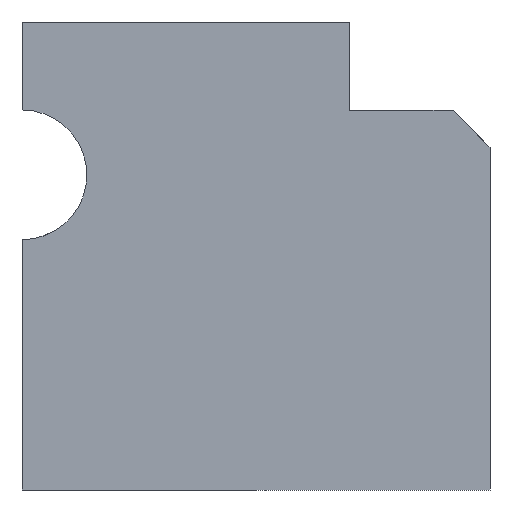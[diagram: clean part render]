
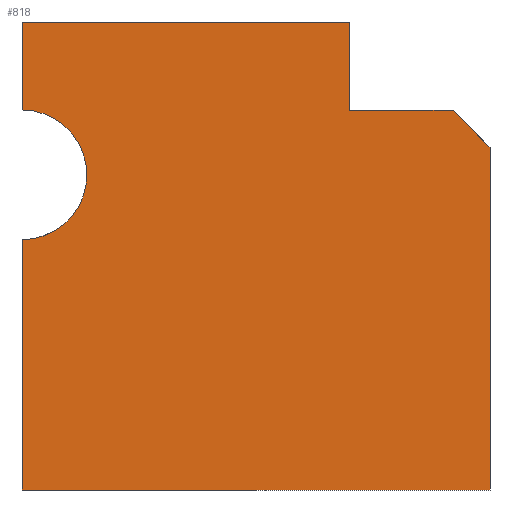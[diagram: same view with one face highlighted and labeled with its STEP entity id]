
A CAD part, left-side view. The second image highlights one B-rep face of the part: STEP entity #818.
In plain terms, the highlighted planar face has unit normal (-1, 0, 0).
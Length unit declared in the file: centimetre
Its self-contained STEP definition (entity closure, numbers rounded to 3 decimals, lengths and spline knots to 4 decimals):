
#2 = EDGE_CURVE ( 'NONE', #890, #308, #367, .T. ) ;
#24 = CARTESIAN_POINT ( 'NONE',  ( 0., 299.9104, 811.0946 ) ) ;
#47 = VECTOR ( 'NONE', #376, 100. ) ;
#90 = DIRECTION ( 'NONE',  ( 0., 0., -1. ) ) ;
#93 = EDGE_CURVE ( 'NONE', #609, #455, #831, .T. ) ;
#134 = CARTESIAN_POINT ( 'NONE',  ( 0., 299.9104, 811.0946 ) ) ;
#147 = CARTESIAN_POINT ( 'NONE',  ( 0., 299.9104, 1000. ) ) ;
#163 = CARTESIAN_POINT ( 'NONE',  ( 0., 1000., 1000. ) ) ;
#176 = LINE ( 'NONE', #452, #226 ) ;
#191 = CARTESIAN_POINT ( 'NONE',  ( 0., 267.7866, 1000. ) ) ;
#210 = LINE ( 'NONE', #779, #213 ) ;
#213 = VECTOR ( 'NONE', #348, 100. ) ;
#226 = VECTOR ( 'NONE', #654, 100. ) ;
#237 = CARTESIAN_POINT ( 'NONE',  ( 0., 0., 732.2134 ) ) ;
#245 = DIRECTION ( 'NONE',  ( 1., 0., 0. ) ) ;
#246 = LINE ( 'NONE', #534, #476 ) ;
#247 = VECTOR ( 'NONE', #563, 100. ) ;
#265 = ORIENTED_EDGE ( 'NONE', *, *, #638, .F. ) ;
#308 = VERTEX_POINT ( 'NONE', #147 ) ;
#313 = LINE ( 'NONE', #24, #591 ) ;
#331 = ORIENTED_EDGE ( 'NONE', *, *, #93, .T. ) ;
#348 = DIRECTION ( 'NONE',  ( 0., 0., -1. ) ) ;
#367 = LINE ( 'NONE', #725, #47 ) ;
#373 = DIRECTION ( 'NONE',  ( 0., 0., -1. ) ) ;
#376 = DIRECTION ( 'NONE',  ( 0., -1., 0. ) ) ;
#385 = CARTESIAN_POINT ( 'NONE',  ( 0., 1000., 1000. ) ) ;
#387 = DIRECTION ( 'NONE',  ( 0., 0., -1. ) ) ;
#406 = EDGE_CURVE ( 'NONE', #412, #531, #556, .T. ) ;
#407 = LINE ( 'NONE', #191, #449 ) ;
#412 = VERTEX_POINT ( 'NONE', #784 ) ;
#417 = ORIENTED_EDGE ( 'NONE', *, *, #694, .T. ) ;
#444 = CARTESIAN_POINT ( 'NONE',  ( 0., 1000., 534.911 ) ) ;
#449 = VECTOR ( 'NONE', #627, 100. ) ;
#452 = CARTESIAN_POINT ( 'NONE',  ( 0., 299.9104, 811.0946 ) ) ;
#455 = VERTEX_POINT ( 'NONE', #633 ) ;
#476 = VECTOR ( 'NONE', #373, 100. ) ;
#477 = ORIENTED_EDGE ( 'NONE', *, *, #487, .T. ) ;
#487 = EDGE_CURVE ( 'NONE', #890, #412, #210, .T. ) ;
#488 = EDGE_LOOP ( 'NONE', ( #477, #712, #523, #331, #794, #417, #558, #265, #672 ) ) ;
#522 = CARTESIAN_POINT ( 'NONE',  ( 0., 1000., 0. ) ) ;
#523 = ORIENTED_EDGE ( 'NONE', *, *, #532, .T. ) ;
#531 = VERTEX_POINT ( 'NONE', #444 ) ;
#532 = EDGE_CURVE ( 'NONE', #531, #609, #246, .T. ) ;
#534 = CARTESIAN_POINT ( 'NONE',  ( 0., 1000., 1000. ) ) ;
#556 = CIRCLE ( 'NONE', #705, 138.5529 ) ;
#558 = ORIENTED_EDGE ( 'NONE', *, *, #565, .F. ) ;
#563 = DIRECTION ( 'NONE',  ( 0., -1., 0. ) ) ;
#565 = EDGE_CURVE ( 'NONE', #691, #909, #176, .T. ) ;
#567 = DIRECTION ( 'NONE',  ( 1., 0., 0. ) ) ;
#574 = CARTESIAN_POINT ( 'NONE',  ( 0., 1000., 673.4639 ) ) ;
#580 = DIRECTION ( 'NONE',  ( 0., 0., -1. ) ) ;
#585 = CARTESIAN_POINT ( 'NONE',  ( 0., 0., 1000. ) ) ;
#590 = EDGE_CURVE ( 'NONE', #825, #455, #805, .T. ) ;
#591 = VECTOR ( 'NONE', #90, 100. ) ;
#593 = CARTESIAN_POINT ( 'NONE',  ( 0., 78.8812, 811.0946 ) ) ;
#604 = VECTOR ( 'NONE', #387, 100. ) ;
#609 = VERTEX_POINT ( 'NONE', #522 ) ;
#627 = DIRECTION ( 'NONE',  ( 0., 0.707, 0.707 ) ) ;
#633 = CARTESIAN_POINT ( 'NONE',  ( 0., 0., 0. ) ) ;
#638 = EDGE_CURVE ( 'NONE', #308, #691, #313, .T. ) ;
#654 = DIRECTION ( 'NONE',  ( 0., -1., 0. ) ) ;
#672 = ORIENTED_EDGE ( 'NONE', *, *, #2, .F. ) ;
#691 = VERTEX_POINT ( 'NONE', #134 ) ;
#694 = EDGE_CURVE ( 'NONE', #825, #909, #407, .T. ) ;
#705 = AXIS2_PLACEMENT_3D ( 'NONE', #574, #567, #580 ) ;
#712 = ORIENTED_EDGE ( 'NONE', *, *, #406, .T. ) ;
#721 = AXIS2_PLACEMENT_3D ( 'NONE', #163, #245, #865 ) ;
#725 = CARTESIAN_POINT ( 'NONE',  ( 0., 1000., 1000. ) ) ;
#728 = FACE_OUTER_BOUND ( 'NONE', #488, .T. ) ;
#779 = CARTESIAN_POINT ( 'NONE',  ( 0., 1000., 1000. ) ) ;
#784 = CARTESIAN_POINT ( 'NONE',  ( 0., 1000., 812.0169 ) ) ;
#794 = ORIENTED_EDGE ( 'NONE', *, *, #590, .F. ) ;
#801 = PLANE ( 'NONE',  #721 ) ;
#805 = LINE ( 'NONE', #585, #604 ) ;
#818 = ADVANCED_FACE ( 'NONE', ( #728 ), #801, .F. ) ;
#825 = VERTEX_POINT ( 'NONE', #237 ) ;
#831 = LINE ( 'NONE', #896, #247 ) ;
#865 = DIRECTION ( 'NONE',  ( 0., 0., -1. ) ) ;
#890 = VERTEX_POINT ( 'NONE', #385 ) ;
#896 = CARTESIAN_POINT ( 'NONE',  ( 0., 1000., 0. ) ) ;
#909 = VERTEX_POINT ( 'NONE', #593 ) ;
